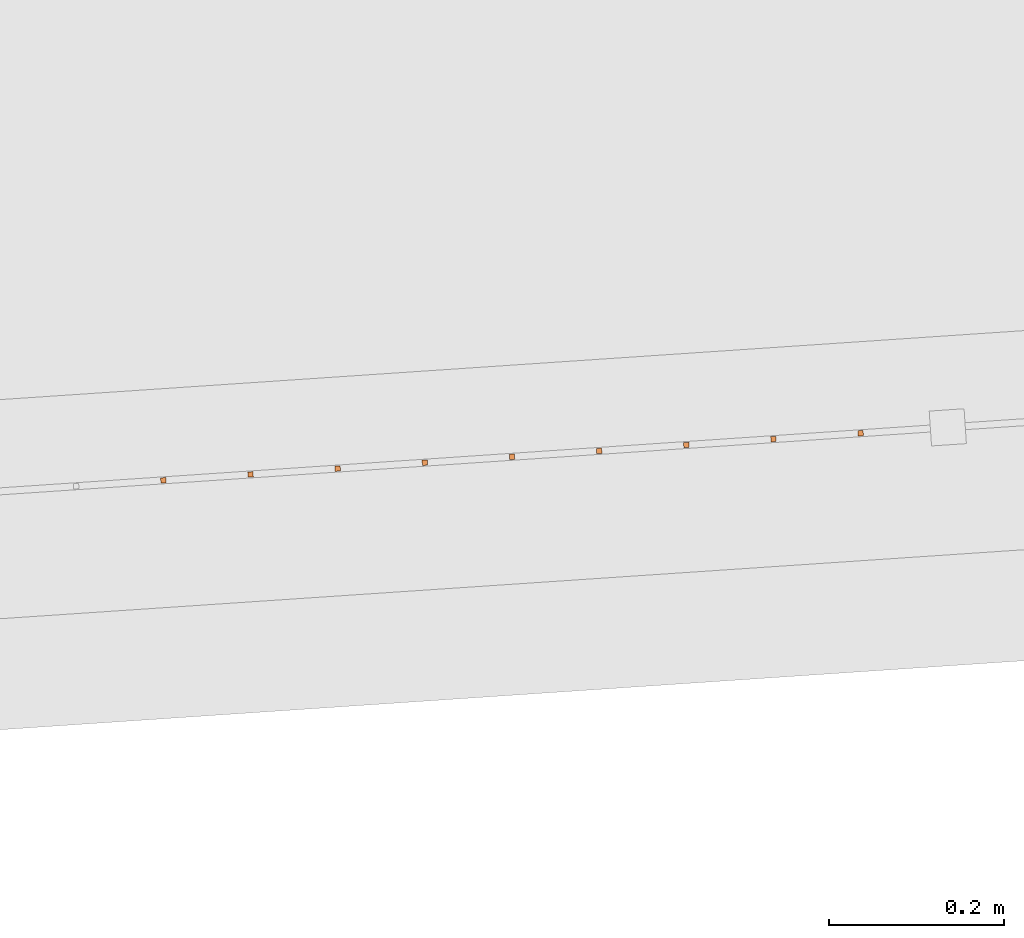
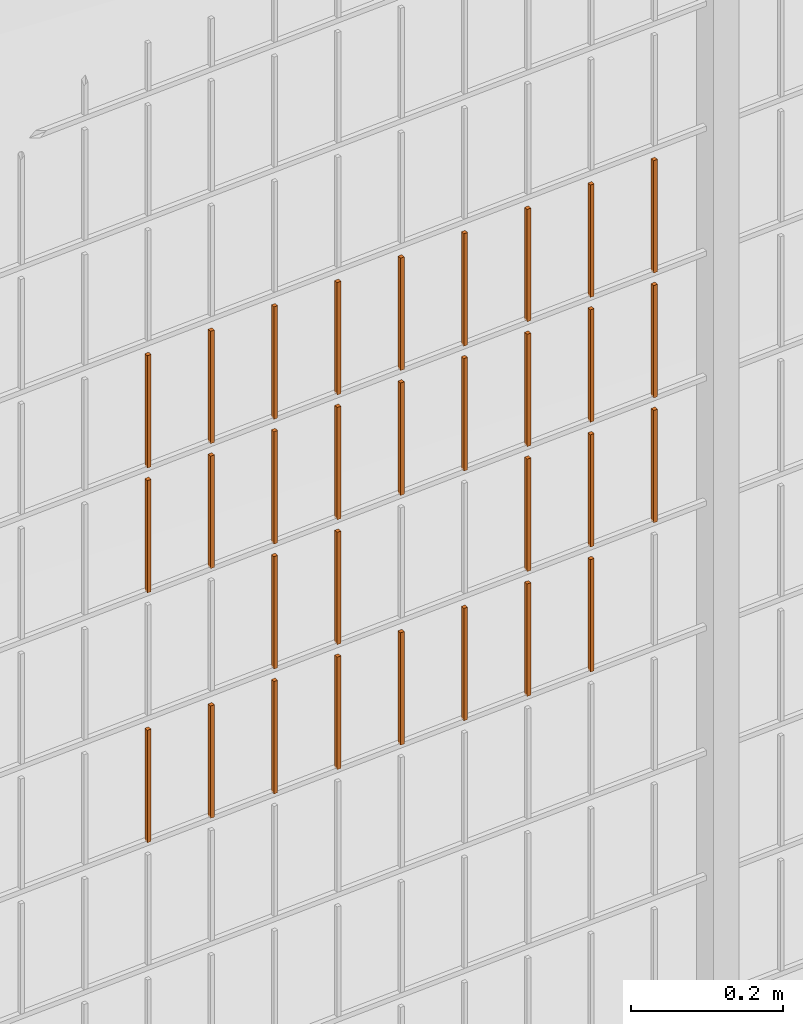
# One storey, part 350 of 1809: 31 proxies, 1 element without a shape of its own.
"""IFC2X3 building model written with IfcOpenShell, lengths in millimetres."""

from ifc_helpers import new_model, entity, si_unit, converted_unit, derived_unit, money_unit, direction, frame, origin_with_axes, place, context, subcontext, project, spatial, faceted_brep, source, transform, mapped, material, type_object, element, aggregate, save


model = new_model("IFC2X3")

# Units and contexts
model_context = context("Model", 3, precision=0.01, world=origin_with_axes(), true_north=direction((0.0, 1.0)))
body_context = subcontext(model_context, "Body", "Model", "MODEL_VIEW")
ifc_project = project(units=[si_unit("LENGTHUNIT", "METRE", prefix="MILLI"), si_unit("AREAUNIT", "SQUARE_METRE"), si_unit("VOLUMEUNIT", "CUBIC_METRE"), converted_unit("PLANEANGLEUNIT", "DEGREE", entity("IfcPlaneAngleMeasure", 0.0174532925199), si_unit("PLANEANGLEUNIT", "RADIAN"), dimensions=[0, 0, 0, 0, 0, 0, 0]), si_unit("SOLIDANGLEUNIT", "STERADIAN"), money_unit("EUR"), converted_unit("TIMEUNIT", "Year", entity("IfcTimeMeasure", 31556926.0), si_unit("TIMEUNIT", "SECOND"), dimensions=[0, 0, 1, 0, 0, 0, 0]), si_unit("MASSUNIT", "GRAM", prefix="KILO"), si_unit("THERMODYNAMICTEMPERATUREUNIT", "DEGREE_CELSIUS"), si_unit("LUMINOUSINTENSITYUNIT", "LUMEN"), si_unit("ENERGYUNIT", "JOULE", prefix="MEGA"), derived_unit("THERMALCONDUCTANCEUNIT", [(si_unit("POWERUNIT", "WATT"), 1), (si_unit("LENGTHUNIT", "METRE"), -1), (si_unit("THERMODYNAMICTEMPERATUREUNIT", "KELVIN"), -1)]), derived_unit("SPECIFICHEATCAPACITYUNIT", [(si_unit("ENERGYUNIT", "JOULE"), 1), (si_unit("MASSUNIT", "GRAM", prefix="KILO"), -1), (si_unit("THERMODYNAMICTEMPERATUREUNIT", "KELVIN"), -1)]), derived_unit("MASSDENSITYUNIT", [(si_unit("MASSUNIT", "GRAM", prefix="KILO"), 1), (si_unit("VOLUMEUNIT", "CUBIC_METRE"), -1)])], contexts=[model_context])

# Site, building, storey
site_placement = place(None, origin_with_axes())
site = spatial("IfcSite", under=ifc_project, at=site_placement, Name="Politse- ja Piirivalveameti ning Päästeameti ühishoone", CompositionType="ELEMENT")
building_placement = place(site_placement, origin_with_axes())
building = spatial("IfcBuilding", under=site, at=building_placement, Name="Politse- ja Piirivalveameti ning Päästeameti ühishoone", CompositionType="ELEMENT")
storey_placement = place(building_placement, origin_with_axes())
storey = spatial("IfcBuildingStorey", under=building, at=storey_placement, Name="Esimene korrus", CompositionType="ELEMENT", Elevation=0.0)

# Proxies
building_element_proxy_type_1 = type_object("IfcBuildingElementProxyType", Name="Railing Type", PredefinedType="NOTDEFINED")
proxy_1_placement = place(storey_placement, frame((89252.001212, -29183.4766571, 203.661247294), z_axis=(0.0, 0.0, 1.0), x_axis=(1.0, 0.0, 0.0)))
proxy_1 = element("IfcBuildingElementProxy", 1, at=proxy_1_placement, inside=storey, type_object=building_element_proxy_type_1, Name="PIIRDEAED")
ifc_material = material(Name="ET-03_Raud")
building_element_proxy_type_2 = type_object("IfcBuildingElementProxyType", Name="IfcBuildingElementProxy", PredefinedType="NOTDEFINED")
shared_shape_1 = source(origin_with_axes(), body_context, "Body", "Brep", [
    faceted_brep([(3.0, 3.0, -0.000752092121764), (-3.0, 3.0, -0.000752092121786), (-3.0, 3.0, 179.99926046), (3.0, 3.0, 179.99926046), (3.0, -3.0, 0.000752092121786), (-3.0, -3.0, 0.000752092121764), (-3.0, -3.0, 180.000764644), (3.0, -3.0, 180.000764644)], [[[0, 1, 2, 3]], [[0, 4, 5, 1]], [[1, 5, 6, 2]], [[3, 2, 6, 7]], [[4, 0, 3, 7]], [[5, 4, 7, 6]]]),
])
proxy_2_placement = place(proxy_1_placement, frame((-27863.1974887, -19179.8286001, 1420.23323817), z_axis=(0.0, 0.0, 1.0), x_axis=(1.0, 0.0, 0.0)))
proxy_2 = element("IfcBuildingElementProxy", 2, at=proxy_2_placement, type_object=building_element_proxy_type_2, material=ifc_material, Name="BALUSTER - 001", context=body_context, shape_type="MappedRepresentation", body=[
    mapped(shared_shape_1, transform((0.0, 0.0, 0.0), x_axis=(-0.0673926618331, 0.997726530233, 0.0), y_axis=(-0.997726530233, -0.0673926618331, 0.0), z_axis=(0.0, 0.0, 1.0))),
])
shared_shape_2 = source(origin_with_axes(), body_context, "Body", "Brep", [
    faceted_brep([(3.0, 3.0, -0.000752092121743), (-3.0, 3.0, -0.000752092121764), (-3.0, 3.0, 179.99926046), (3.0, 3.0, 179.99926046), (3.0, -3.0, 0.000752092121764), (-3.0, -3.0, 0.000752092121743), (-3.0, -3.0, 180.000764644), (3.0, -3.0, 180.000764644)], [[[0, 1, 2, 3]], [[0, 4, 5, 1]], [[1, 5, 6, 2]], [[3, 2, 6, 7]], [[4, 0, 3, 7]], [[5, 4, 7, 6]]]),
])
proxy_3_placement = place(proxy_1_placement, frame((-27962.9701417, -19186.5678662, 820.208168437), z_axis=(0.0, 0.0, 1.0), x_axis=(1.0, 0.0, 0.0)))
proxy_3 = element("IfcBuildingElementProxy", 3, at=proxy_3_placement, type_object=building_element_proxy_type_2, material=ifc_material, Name="BALUSTER - 001", context=body_context, shape_type="MappedRepresentation", body=[
    mapped(shared_shape_2, transform((0.0, 0.0, 0.0), x_axis=(-0.0673926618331, 0.997726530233, 0.0), y_axis=(-0.997726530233, -0.0673926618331, 0.0), z_axis=(0.0, 0.0, 1.0))),
])
shared_shape_3 = source(origin_with_axes(), body_context, "Body", "Brep", [
    faceted_brep([(3.0, 3.0, -0.000752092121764), (-3.0, 3.0, -0.000752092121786), (-3.0, 3.0, 179.99926046), (3.0, 3.0, 179.99926046), (3.0, -3.0, 0.000752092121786), (-3.0, -3.0, 0.000752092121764), (-3.0, -3.0, 180.000764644), (3.0, -3.0, 180.000764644)], [[[0, 1, 2, 3]], [[0, 4, 5, 1]], [[1, 5, 6, 2]], [[3, 2, 6, 7]], [[4, 0, 3, 7]], [[5, 4, 7, 6]]]),
])
proxy_4_placement = place(proxy_1_placement, frame((-27863.1974887, -19179.8286001, 820.233238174), z_axis=(0.0, 0.0, 1.0), x_axis=(1.0, 0.0, 0.0)))
proxy_4 = element("IfcBuildingElementProxy", 4, at=proxy_4_placement, type_object=building_element_proxy_type_2, material=ifc_material, Name="BALUSTER - 001", context=body_context, shape_type="MappedRepresentation", body=[
    mapped(shared_shape_3, transform((0.0, 0.0, 0.0), x_axis=(-0.0673926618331, 0.997726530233, 0.0), y_axis=(-0.997726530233, -0.0673926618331, 0.0), z_axis=(0.0, 0.0, 1.0))),
])
proxy_5_placement = place(proxy_1_placement, frame((-27863.1974887, -19179.8286001, 1220.23323817), z_axis=(0.0, 0.0, 1.0), x_axis=(1.0, 0.0, 0.0)))
proxy_5 = element("IfcBuildingElementProxy", 5, at=proxy_5_placement, type_object=building_element_proxy_type_2, material=ifc_material, Name="BALUSTER - 001", context=body_context, shape_type="MappedRepresentation", body=[
    mapped(shared_shape_3, transform((0.0, 0.0, 0.0), x_axis=(-0.0673926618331, 0.997726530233, 0.0), y_axis=(-0.997726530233, -0.0673926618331, 0.0), z_axis=(0.0, 0.0, 1.0))),
])
shared_shape_4 = source(origin_with_axes(), body_context, "Body", "Brep", [
    faceted_brep([(3.0, 3.0, -0.000752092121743), (-3.0, 3.0, -0.000752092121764), (-3.0, 3.0, 179.99926046), (3.0, 3.0, 179.99926046), (3.0, -3.0, 0.000752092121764), (-3.0, -3.0, 0.000752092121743), (-3.0, -3.0, 180.000764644), (3.0, -3.0, 180.000764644)], [[[0, 1, 2, 3]], [[0, 4, 5, 1]], [[1, 5, 6, 2]], [[3, 2, 6, 7]], [[4, 0, 3, 7]], [[5, 4, 7, 6]]]),
])
proxy_6_placement = place(proxy_1_placement, frame((-28162.5154478, -19200.0463986, 820.158028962), z_axis=(0.0, 0.0, 1.0), x_axis=(1.0, 0.0, 0.0)))
proxy_6 = element("IfcBuildingElementProxy", 6, at=proxy_6_placement, type_object=building_element_proxy_type_2, material=ifc_material, Name="BALUSTER - 001", context=body_context, shape_type="MappedRepresentation", body=[
    mapped(shared_shape_4, transform((0.0, 0.0, 0.0), x_axis=(-0.0673926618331, 0.997726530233, 0.0), y_axis=(-0.997726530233, -0.0673926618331, 0.0), z_axis=(0.0, 0.0, 1.0))),
])
shared_shape_5 = source(origin_with_axes(), body_context, "Body", "Brep", [
    faceted_brep([(3.0, 3.0, -0.000752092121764), (-3.0, 3.0, -0.000752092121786), (-3.0, 3.0, 179.99926046), (3.0, 3.0, 179.99926046), (3.0, -3.0, 0.000752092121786), (-3.0, -3.0, 0.000752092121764), (-3.0, -3.0, 180.000764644), (3.0, -3.0, 180.000764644)], [[[0, 1, 2, 3]], [[0, 4, 5, 1]], [[1, 5, 6, 2]], [[3, 2, 6, 7]], [[4, 0, 3, 7]], [[5, 4, 7, 6]]]),
])
proxy_7_placement = place(proxy_1_placement, frame((-27763.4248357, -19173.0893339, 820.258307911), z_axis=(0.0, 0.0, 1.0), x_axis=(1.0, 0.0, 0.0)))
proxy_7 = element("IfcBuildingElementProxy", 7, at=proxy_7_placement, type_object=building_element_proxy_type_2, material=ifc_material, Name="BALUSTER - 001", context=body_context, shape_type="MappedRepresentation", body=[
    mapped(shared_shape_5, transform((0.0, 0.0, 0.0), x_axis=(-0.0673926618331, 0.997726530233, 0.0), y_axis=(-0.997726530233, -0.0673926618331, 0.0), z_axis=(0.0, 0.0, 1.0))),
])
shared_shape_6 = source(origin_with_axes(), body_context, "Body", "Brep", [
    faceted_brep([(3.0, 3.0, -0.000752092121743), (-3.0, 3.0, -0.000752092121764), (-3.0, 3.0, 179.99926046), (3.0, 3.0, 179.99926046), (3.0, -3.0, 0.000752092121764), (-3.0, -3.0, 0.000752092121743), (-3.0, -3.0, 180.000764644), (3.0, -3.0, 180.000764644)], [[[0, 1, 2, 3]], [[0, 4, 5, 1]], [[1, 5, 6, 2]], [[3, 2, 6, 7]], [[4, 0, 3, 7]], [[5, 4, 7, 6]]]),
])
proxy_8_placement = place(proxy_1_placement, frame((-27962.9701417, -19186.5678662, 1220.20816844), z_axis=(0.0, 0.0, 1.0), x_axis=(1.0, 0.0, 0.0)))
proxy_8 = element("IfcBuildingElementProxy", 8, at=proxy_8_placement, type_object=building_element_proxy_type_2, material=ifc_material, Name="BALUSTER - 001", context=body_context, shape_type="MappedRepresentation", body=[
    mapped(shared_shape_6, transform((0.0, 0.0, 0.0), x_axis=(-0.0673926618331, 0.997726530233, 0.0), y_axis=(-0.997726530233, -0.0673926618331, 0.0), z_axis=(0.0, 0.0, 1.0))),
])
shared_shape_7 = source(origin_with_axes(), body_context, "Body", "Brep", [
    faceted_brep([(3.0, 3.0, -0.000752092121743), (-3.0, 3.0, -0.000752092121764), (-3.0, 3.0, 179.99926046), (3.0, 3.0, 179.99926046), (3.0, -3.0, 0.000752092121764), (-3.0, -3.0, 0.000752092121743), (-3.0, -3.0, 180.000764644), (3.0, -3.0, 180.000764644)], [[[0, 1, 2, 3]], [[0, 4, 5, 1]], [[1, 5, 6, 2]], [[3, 2, 6, 7]], [[4, 0, 3, 7]], [[5, 4, 7, 6]]]),
])
proxy_9_placement = place(proxy_1_placement, frame((-27962.9701417, -19186.5678662, 1420.20816844), z_axis=(0.0, 0.0, 1.0), x_axis=(1.0, 0.0, 0.0)))
proxy_9 = element("IfcBuildingElementProxy", 9, at=proxy_9_placement, type_object=building_element_proxy_type_2, material=ifc_material, Name="BALUSTER - 001", context=body_context, shape_type="MappedRepresentation", body=[
    mapped(shared_shape_7, transform((0.0, 0.0, 0.0), x_axis=(-0.0673926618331, 0.997726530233, 0.0), y_axis=(-0.997726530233, -0.0673926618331, 0.0), z_axis=(0.0, 0.0, 1.0))),
])
shared_shape_8 = source(origin_with_axes(), body_context, "Body", "Brep", [
    faceted_brep([(3.0, 3.0, -0.000752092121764), (-3.0, 3.0, -0.000752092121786), (-3.0, 3.0, 179.99926046), (3.0, 3.0, 179.99926046), (3.0, -3.0, 0.000752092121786), (-3.0, -3.0, 0.000752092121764), (-3.0, -3.0, 180.000764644), (3.0, -3.0, 180.000764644)], [[[0, 1, 2, 3]], [[0, 4, 5, 1]], [[1, 5, 6, 2]], [[3, 2, 6, 7]], [[4, 0, 3, 7]], [[5, 4, 7, 6]]]),
])
proxy_10_placement = place(proxy_1_placement, frame((-27763.4248357, -19173.0893339, 1220.25830791), z_axis=(0.0, 0.0, 1.0), x_axis=(1.0, 0.0, 0.0)))
proxy_10 = element("IfcBuildingElementProxy", 10, at=proxy_10_placement, type_object=building_element_proxy_type_2, material=ifc_material, Name="BALUSTER - 001", context=body_context, shape_type="MappedRepresentation", body=[
    mapped(shared_shape_8, transform((0.0, 0.0, 0.0), x_axis=(-0.0673926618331, 0.997726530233, 0.0), y_axis=(-0.997726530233, -0.0673926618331, 0.0), z_axis=(0.0, 0.0, 1.0))),
])
shared_shape_9 = source(origin_with_axes(), body_context, "Body", "Brep", [
    faceted_brep([(3.0, 3.0, -0.000752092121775), (-3.0, 3.0, -0.000752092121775), (-3.0, 3.0, 179.99926046), (3.0, 3.0, 179.99926046), (3.0, -3.0, 0.000752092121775), (-3.0, -3.0, 0.000752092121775), (-3.0, -3.0, 180.000764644), (3.0, -3.0, 180.000764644)], [[[0, 1, 2, 3]], [[0, 4, 5, 1]], [[1, 5, 6, 2]], [[3, 2, 6, 7]], [[4, 0, 3, 7]], [[5, 4, 7, 6]]]),
])
proxy_11_placement = place(proxy_1_placement, frame((-27563.8795296, -19159.6108015, 1420.30844739), z_axis=(0.0, 0.0, 1.0), x_axis=(1.0, 0.0, 0.0)))
proxy_11 = element("IfcBuildingElementProxy", 11, at=proxy_11_placement, type_object=building_element_proxy_type_2, material=ifc_material, Name="BALUSTER - 001", context=body_context, shape_type="MappedRepresentation", body=[
    mapped(shared_shape_9, transform((0.0, 0.0, 0.0), x_axis=(-0.0673926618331, 0.997726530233, 0.0), y_axis=(-0.997726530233, -0.0673926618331, 0.0), z_axis=(0.0, 0.0, 1.0))),
])
shared_shape_10 = source(origin_with_axes(), body_context, "Body", "Brep", [
    faceted_brep([(3.0, 3.0, -0.000752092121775), (-3.0, 3.0, -0.000752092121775), (-3.0, 3.0, 179.99926046), (3.0, 3.0, 179.99926046), (3.0, -3.0, 0.000752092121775), (-3.0, -3.0, 0.000752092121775), (-3.0, -3.0, 180.000764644), (3.0, -3.0, 180.000764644)], [[[0, 1, 2, 3]], [[0, 4, 5, 1]], [[1, 5, 6, 2]], [[3, 2, 6, 7]], [[4, 0, 3, 7]], [[5, 4, 7, 6]]]),
])
proxy_12_placement = place(proxy_1_placement, frame((-27563.8795296, -19159.6108015, 1220.30844739), z_axis=(0.0, 0.0, 1.0), x_axis=(1.0, 0.0, 0.0)))
proxy_12 = element("IfcBuildingElementProxy", 12, at=proxy_12_placement, type_object=building_element_proxy_type_2, material=ifc_material, Name="BALUSTER - 001", context=body_context, shape_type="MappedRepresentation", body=[
    mapped(shared_shape_10, transform((0.0, 0.0, 0.0), x_axis=(-0.0673926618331, 0.997726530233, 0.0), y_axis=(-0.997726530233, -0.0673926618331, 0.0), z_axis=(0.0, 0.0, 1.0))),
])
shared_shape_11 = source(origin_with_axes(), body_context, "Body", "Brep", [
    faceted_brep([(3.0, 3.0, -0.000752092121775), (-3.0, 3.0, -0.000752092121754), (-3.0, 3.0, 179.99926046), (3.0, 3.0, 179.99926046), (3.0, -3.0, 0.000752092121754), (-3.0, -3.0, 0.000752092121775), (-3.0, -3.0, 180.000764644), (3.0, -3.0, 180.000764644)], [[[0, 1, 2, 3]], [[0, 4, 5, 1]], [[1, 5, 6, 2]], [[3, 2, 6, 7]], [[4, 0, 3, 7]], [[5, 4, 7, 6]]]),
])
proxy_13_placement = place(proxy_1_placement, frame((-27464.1068766, -19152.8715353, 820.333517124), z_axis=(0.0, 0.0, 1.0), x_axis=(1.0, 0.0, 0.0)))
proxy_13 = element("IfcBuildingElementProxy", 13, at=proxy_13_placement, type_object=building_element_proxy_type_2, material=ifc_material, Name="BALUSTER - 001", context=body_context, shape_type="MappedRepresentation", body=[
    mapped(shared_shape_11, transform((0.0, 0.0, 0.0), x_axis=(-0.0673926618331, 0.997726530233, 0.0), y_axis=(-0.997726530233, -0.0673926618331, 0.0), z_axis=(0.0, 0.0, 1.0))),
])
shared_shape_12 = source(origin_with_axes(), body_context, "Body", "Brep", [
    faceted_brep([(3.0, 3.0, -0.000752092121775), (-3.0, 3.0, -0.000752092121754), (-3.0, 3.0, 179.99926046), (3.0, 3.0, 179.99926046), (3.0, -3.0, 0.000752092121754), (-3.0, -3.0, 0.000752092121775), (-3.0, -3.0, 180.000764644), (3.0, -3.0, 180.000764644)], [[[0, 1, 2, 3]], [[0, 4, 5, 1]], [[1, 5, 6, 2]], [[3, 2, 6, 7]], [[4, 0, 3, 7]], [[5, 4, 7, 6]]]),
])
proxy_14_placement = place(proxy_1_placement, frame((-27663.6521826, -19166.3500677, 820.283377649), z_axis=(0.0, 0.0, 1.0), x_axis=(1.0, 0.0, 0.0)))
proxy_14 = element("IfcBuildingElementProxy", 14, at=proxy_14_placement, type_object=building_element_proxy_type_2, material=ifc_material, Name="BALUSTER - 001", context=body_context, shape_type="MappedRepresentation", body=[
    mapped(shared_shape_12, transform((0.0, 0.0, 0.0), x_axis=(-0.0673926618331, 0.997726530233, 0.0), y_axis=(-0.997726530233, -0.0673926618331, 0.0), z_axis=(0.0, 0.0, 1.0))),
])
shared_shape_13 = source(origin_with_axes(), body_context, "Body", "Brep", [
    faceted_brep([(3.0, 3.0, -0.000752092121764), (-3.0, 3.0, -0.000752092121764), (-3.0, 3.0, 179.99926046), (3.0, 3.0, 179.99926046), (3.0, -3.0, 0.000752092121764), (-3.0, -3.0, 0.000752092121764), (-3.0, -3.0, 180.000764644), (3.0, -3.0, 180.000764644)], [[[0, 1, 2, 3]], [[0, 4, 5, 1]], [[1, 5, 6, 2]], [[3, 2, 6, 7]], [[4, 0, 3, 7]], [[5, 4, 7, 6]]]),
])
proxy_15_placement = place(proxy_1_placement, frame((-27364.3342236, -19146.1322691, 1220.35858686), z_axis=(0.0, 0.0, 1.0), x_axis=(1.0, 0.0, 0.0)))
proxy_15 = element("IfcBuildingElementProxy", 15, at=proxy_15_placement, type_object=building_element_proxy_type_2, material=ifc_material, Name="BALUSTER - 001", context=body_context, shape_type="MappedRepresentation", body=[
    mapped(shared_shape_13, transform((0.0, 0.0, 0.0), x_axis=(-0.0673926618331, 0.997726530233, 0.0), y_axis=(-0.997726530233, -0.0673926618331, 0.0), z_axis=(0.0, 0.0, 1.0))),
])
shared_shape_14 = source(origin_with_axes(), body_context, "Body", "Brep", [
    faceted_brep([(3.0, 3.0, -0.000752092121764), (-3.0, 3.0, -0.000752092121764), (-3.0, 3.0, 179.99926046), (3.0, 3.0, 179.99926046), (3.0, -3.0, 0.000752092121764), (-3.0, -3.0, 0.000752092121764), (-3.0, -3.0, 180.000764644), (3.0, -3.0, 180.000764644)], [[[0, 1, 2, 3]], [[0, 4, 5, 1]], [[1, 5, 6, 2]], [[3, 2, 6, 7]], [[4, 0, 3, 7]], [[5, 4, 7, 6]]]),
])
proxy_16_placement = place(proxy_1_placement, frame((-27563.8795296, -19159.6108015, 820.308447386), z_axis=(0.0, 0.0, 1.0), x_axis=(1.0, 0.0, 0.0)))
proxy_16 = element("IfcBuildingElementProxy", 16, at=proxy_16_placement, type_object=building_element_proxy_type_2, material=ifc_material, Name="BALUSTER - 001", context=body_context, shape_type="MappedRepresentation", body=[
    mapped(shared_shape_14, transform((0.0, 0.0, 0.0), x_axis=(-0.0673926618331, 0.997726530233, 0.0), y_axis=(-0.997726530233, -0.0673926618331, 0.0), z_axis=(0.0, 0.0, 1.0))),
])
shared_shape_15 = source(origin_with_axes(), body_context, "Body", "Brep", [
    faceted_brep([(3.0, 3.0, -0.000752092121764), (-3.0, 3.0, -0.000752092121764), (-3.0, 3.0, 179.99926046), (3.0, 3.0, 179.99926046), (3.0, -3.0, 0.000752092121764), (-3.0, -3.0, 0.000752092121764), (-3.0, -3.0, 180.000764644), (3.0, -3.0, 180.000764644)], [[[0, 1, 2, 3]], [[0, 4, 5, 1]], [[1, 5, 6, 2]], [[3, 2, 6, 7]], [[4, 0, 3, 7]], [[5, 4, 7, 6]]]),
])
proxy_17_placement = place(proxy_1_placement, frame((-27364.3342236, -19146.1322691, 1420.35858686), z_axis=(0.0, 0.0, 1.0), x_axis=(1.0, 0.0, 0.0)))
proxy_17 = element("IfcBuildingElementProxy", 17, at=proxy_17_placement, type_object=building_element_proxy_type_2, material=ifc_material, Name="BALUSTER - 001", context=body_context, shape_type="MappedRepresentation", body=[
    mapped(shared_shape_15, transform((0.0, 0.0, 0.0), x_axis=(-0.0673926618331, 0.997726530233, 0.0), y_axis=(-0.997726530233, -0.0673926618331, 0.0), z_axis=(0.0, 0.0, 1.0))),
])
shared_shape_16 = source(origin_with_axes(), body_context, "Body", "Brep", [
    faceted_brep([(3.0, 3.0, -0.000752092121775), (-3.0, 3.0, -0.000752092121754), (-3.0, 3.0, 179.99926046), (3.0, 3.0, 179.99926046), (3.0, -3.0, 0.000752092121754), (-3.0, -3.0, 0.000752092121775), (-3.0, -3.0, 180.000764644), (3.0, -3.0, 180.000764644)], [[[0, 1, 2, 3]], [[0, 4, 5, 1]], [[1, 5, 6, 2]], [[3, 2, 6, 7]], [[4, 0, 3, 7]], [[5, 4, 7, 6]]]),
])
proxy_18_placement = place(proxy_1_placement, frame((-28062.7427947, -19193.3071324, 1220.1830987), z_axis=(0.0, 0.0, 1.0), x_axis=(1.0, 0.0, 0.0)))
proxy_18 = element("IfcBuildingElementProxy", 18, at=proxy_18_placement, type_object=building_element_proxy_type_2, material=ifc_material, Name="BALUSTER - 001", context=body_context, shape_type="MappedRepresentation", body=[
    mapped(shared_shape_16, transform((0.0, 0.0, 0.0), x_axis=(-0.0673926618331, 0.997726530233, 0.0), y_axis=(-0.997726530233, -0.0673926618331, 0.0), z_axis=(0.0, 0.0, 1.0))),
])
shared_shape_17 = source(origin_with_axes(), body_context, "Body", "Brep", [
    faceted_brep([(3.0, 3.0, -0.000752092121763), (-3.0, 3.0, -0.000752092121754), (-3.00000000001, 2.99999999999, 179.99926046), (2.99999999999, 2.99999999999, 179.99926046), (3.0, -3.0, 0.000752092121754), (-3.0, -3.0, 0.000752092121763), (-3.00000000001, -3.00000000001, 180.000764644), (2.99999999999, -3.00000000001, 180.000764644)], [[[0, 1, 2, 3]], [[0, 4, 5, 1]], [[1, 5, 6, 2]], [[3, 2, 6, 7]], [[4, 0, 3, 7]], [[5, 4, 7, 6]]]),
])
proxy_19_placement = place(proxy_1_placement, frame((-27464.1068766, -19152.8715353, 1020.33351712), z_axis=(0.0, 0.0, 1.0), x_axis=(1.0, 0.0, 0.0)))
proxy_19 = element("IfcBuildingElementProxy", 19, at=proxy_19_placement, type_object=building_element_proxy_type_2, material=ifc_material, Name="BALUSTER - 001", context=body_context, shape_type="MappedRepresentation", body=[
    mapped(shared_shape_17, transform((0.0, 0.0, 0.0), x_axis=(-0.0673926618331, 0.997726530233, 0.0), y_axis=(-0.997726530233, -0.0673926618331, 0.0), z_axis=(0.0, 0.0, 1.0))),
])
shared_shape_18 = source(origin_with_axes(), body_context, "Body", "Brep", [
    faceted_brep([(3.0, 3.0, -0.000752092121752), (-3.0, 3.0, -0.000752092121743), (-3.00000000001, 2.99999999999, 179.99926046), (2.99999999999, 2.99999999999, 179.99926046), (3.0, -3.0, 0.000752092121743), (-3.0, -3.0, 0.000752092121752), (-3.00000000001, -3.00000000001, 180.000764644), (2.99999999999, -3.00000000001, 180.000764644)], [[[0, 1, 2, 3]], [[0, 4, 5, 1]], [[1, 5, 6, 2]], [[3, 2, 6, 7]], [[4, 0, 3, 7]], [[5, 4, 7, 6]]]),
])
proxy_20_placement = place(proxy_1_placement, frame((-27962.9701417, -19186.5678662, 1020.20816844), z_axis=(0.0, 0.0, 1.0), x_axis=(1.0, 0.0, 0.0)))
proxy_20 = element("IfcBuildingElementProxy", 20, at=proxy_20_placement, type_object=building_element_proxy_type_2, material=ifc_material, Name="BALUSTER - 001", context=body_context, shape_type="MappedRepresentation", body=[
    mapped(shared_shape_18, transform((0.0, 0.0, 0.0), x_axis=(-0.0673926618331, 0.997726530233, 0.0), y_axis=(-0.997726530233, -0.0673926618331, 0.0), z_axis=(0.0, 0.0, 1.0))),
])
shared_shape_19 = source(origin_with_axes(), body_context, "Body", "Brep", [
    faceted_brep([(3.0, 3.0, -0.000752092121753), (-3.0, 3.0, -0.000752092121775), (-3.0, 3.0, 179.99926046), (3.0, 3.0, 179.99926046), (3.0, -3.0, 0.000752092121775), (-3.0, -3.0, 0.000752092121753), (-3.0, -3.0, 180.000764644), (3.0, -3.0, 180.000764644)], [[[0, 1, 2, 3]], [[0, 4, 5, 1]], [[1, 5, 6, 2]], [[3, 2, 6, 7]], [[4, 0, 3, 7]], [[5, 4, 7, 6]]]),
])
proxy_21_placement = place(proxy_1_placement, frame((-28062.7427947, -19193.3071324, 820.183098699), z_axis=(0.0, 0.0, 1.0), x_axis=(1.0, 0.0, 0.0)))
proxy_21 = element("IfcBuildingElementProxy", 21, at=proxy_21_placement, type_object=building_element_proxy_type_2, material=ifc_material, Name="BALUSTER - 001", context=body_context, shape_type="MappedRepresentation", body=[
    mapped(shared_shape_19, transform((0.0, 0.0, 0.0), x_axis=(-0.0673926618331, 0.997726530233, 0.0), y_axis=(-0.997726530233, -0.0673926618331, 0.0), z_axis=(0.0, 0.0, 1.0))),
])
shared_shape_20 = source(origin_with_axes(), body_context, "Body", "Brep", [
    faceted_brep([(3.0, 3.0, -0.000752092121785), (-3.0, 3.0, -0.000752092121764), (-3.0, 3.0, 179.99926046), (3.0, 3.0, 179.99926046), (3.0, -3.0, 0.000752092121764), (-3.0, -3.0, 0.000752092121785), (-3.0, -3.0, 180.000764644), (3.0, -3.0, 180.000764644)], [[[0, 1, 2, 3]], [[0, 4, 5, 1]], [[1, 5, 6, 2]], [[3, 2, 6, 7]], [[4, 0, 3, 7]], [[5, 4, 7, 6]]]),
])
proxy_22_placement = place(proxy_1_placement, frame((-27663.6521826, -19166.3500677, 1220.28337765), z_axis=(0.0, 0.0, 1.0), x_axis=(1.0, 0.0, 0.0)))
proxy_22 = element("IfcBuildingElementProxy", 22, at=proxy_22_placement, type_object=building_element_proxy_type_2, material=ifc_material, Name="BALUSTER - 001", context=body_context, shape_type="MappedRepresentation", body=[
    mapped(shared_shape_20, transform((0.0, 0.0, 0.0), x_axis=(-0.0673926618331, 0.997726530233, 0.0), y_axis=(-0.997726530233, -0.0673926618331, 0.0), z_axis=(0.0, 0.0, 1.0))),
])
shared_shape_21 = source(origin_with_axes(), body_context, "Body", "Brep", [
    faceted_brep([(3.0, 3.0, -0.000752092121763), (-3.0, 3.0, -0.000752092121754), (-3.00000000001, 2.99999999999, 179.99926046), (2.99999999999, 2.99999999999, 179.99926046), (3.0, -3.0, 0.000752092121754), (-3.0, -3.0, 0.000752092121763), (-3.00000000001, -3.00000000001, 180.000764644), (2.99999999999, -3.00000000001, 180.000764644)], [[[0, 1, 2, 3]], [[0, 4, 5, 1]], [[1, 5, 6, 2]], [[3, 2, 6, 7]], [[4, 0, 3, 7]], [[5, 4, 7, 6]]]),
])
proxy_23_placement = place(proxy_1_placement, frame((-27364.3342236, -19146.1322691, 1020.35858686), z_axis=(0.0, 0.0, 1.0), x_axis=(1.0, 0.0, 0.0)))
proxy_23 = element("IfcBuildingElementProxy", 23, at=proxy_23_placement, type_object=building_element_proxy_type_2, material=ifc_material, Name="BALUSTER - 001", context=body_context, shape_type="MappedRepresentation", body=[
    mapped(shared_shape_21, transform((0.0, 0.0, 0.0), x_axis=(-0.0673926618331, 0.997726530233, 0.0), y_axis=(-0.997726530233, -0.0673926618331, 0.0), z_axis=(0.0, 0.0, 1.0))),
])
shared_shape_22 = source(origin_with_axes(), body_context, "Body", "Brep", [
    faceted_brep([(3.0, 3.0, -0.000752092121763), (-3.0, 3.0, -0.000752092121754), (-3.00000000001, 2.99999999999, 179.99926046), (2.99999999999, 2.99999999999, 179.99926046), (3.0, -3.0, 0.000752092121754), (-3.0, -3.0, 0.000752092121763), (-3.00000000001, -3.00000000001, 180.000764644), (2.99999999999, -3.00000000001, 180.000764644)], [[[0, 1, 2, 3]], [[0, 4, 5, 1]], [[1, 5, 6, 2]], [[3, 2, 6, 7]], [[4, 0, 3, 7]], [[5, 4, 7, 6]]]),
])
proxy_24_placement = place(proxy_1_placement, frame((-27563.8795296, -19159.6108015, 1020.30844739), z_axis=(0.0, 0.0, 1.0), x_axis=(1.0, 0.0, 0.0)))
proxy_24 = element("IfcBuildingElementProxy", 24, at=proxy_24_placement, type_object=building_element_proxy_type_2, material=ifc_material, Name="BALUSTER - 001", context=body_context, shape_type="MappedRepresentation", body=[
    mapped(shared_shape_22, transform((0.0, 0.0, 0.0), x_axis=(-0.0673926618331, 0.997726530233, 0.0), y_axis=(-0.997726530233, -0.0673926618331, 0.0), z_axis=(0.0, 0.0, 1.0))),
])
shared_shape_23 = source(origin_with_axes(), body_context, "Body", "Brep", [
    faceted_brep([(3.0, 3.0, -0.000752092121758), (-3.0, 3.0, -0.00075209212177), (-3.00000000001, 3.0, 179.99926046), (2.99999999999, 3.0, 179.99926046), (3.0, -3.0, 0.00075209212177), (-3.0, -3.0, 0.000752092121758), (-3.00000000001, -3.0, 180.000764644), (2.99999999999, -3.0, 180.000764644)], [[[0, 1, 2, 3]], [[0, 4, 5, 1]], [[1, 5, 6, 2]], [[3, 2, 6, 7]], [[4, 0, 3, 7]], [[5, 4, 7, 6]]]),
])
proxy_25_placement = place(proxy_1_placement, frame((-27863.1974887, -19179.8286001, 1020.23323817), z_axis=(0.0, 0.0, 1.0), x_axis=(1.0, 0.0, 0.0)))
proxy_25 = element("IfcBuildingElementProxy", 25, at=proxy_25_placement, type_object=building_element_proxy_type_2, material=ifc_material, Name="BALUSTER - 001", context=body_context, shape_type="MappedRepresentation", body=[
    mapped(shared_shape_23, transform((0.0, 0.0, 0.0), x_axis=(-0.0673926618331, 0.997726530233, 0.0), y_axis=(-0.997726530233, -0.0673926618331, 0.0), z_axis=(0.0, 0.0, 1.0))),
])
shared_shape_24 = source(origin_with_axes(), body_context, "Body", "Brep", [
    faceted_brep([(3.0, 3.0, -0.000752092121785), (-3.0, 3.0, -0.000752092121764), (-3.0, 3.0, 179.99926046), (3.0, 3.0, 179.99926046), (3.0, -3.0, 0.000752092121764), (-3.0, -3.0, 0.000752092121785), (-3.0, -3.0, 180.000764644), (3.0, -3.0, 180.000764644)], [[[0, 1, 2, 3]], [[0, 4, 5, 1]], [[1, 5, 6, 2]], [[3, 2, 6, 7]], [[4, 0, 3, 7]], [[5, 4, 7, 6]]]),
])
proxy_26_placement = place(proxy_1_placement, frame((-27464.1068766, -19152.8715353, 1220.33351712), z_axis=(0.0, 0.0, 1.0), x_axis=(1.0, 0.0, 0.0)))
proxy_26 = element("IfcBuildingElementProxy", 26, at=proxy_26_placement, type_object=building_element_proxy_type_2, material=ifc_material, Name="BALUSTER - 001", context=body_context, shape_type="MappedRepresentation", body=[
    mapped(shared_shape_24, transform((0.0, 0.0, 0.0), x_axis=(-0.0673926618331, 0.997726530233, 0.0), y_axis=(-0.997726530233, -0.0673926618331, 0.0), z_axis=(0.0, 0.0, 1.0))),
])
shared_shape_25 = source(origin_with_axes(), body_context, "Body", "Brep", [
    faceted_brep([(3.0, 3.0, -0.000752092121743), (-3.0, 3.0, -0.000752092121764), (-3.0, 3.0, 179.99926046), (3.0, 3.0, 179.99926046), (3.0, -3.0, 0.000752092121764), (-3.0, -3.0, 0.000752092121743), (-3.0, -3.0, 180.000764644), (3.0, -3.0, 180.000764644)], [[[0, 1, 2, 3]], [[0, 4, 5, 1]], [[1, 5, 6, 2]], [[3, 2, 6, 7]], [[4, 0, 3, 7]], [[5, 4, 7, 6]]]),
])
proxy_27_placement = place(proxy_1_placement, frame((-28162.5154478, -19200.0463986, 1220.15802896), z_axis=(0.0, 0.0, 1.0), x_axis=(1.0, 0.0, 0.0)))
proxy_27 = element("IfcBuildingElementProxy", 27, at=proxy_27_placement, type_object=building_element_proxy_type_2, material=ifc_material, Name="BALUSTER - 001", context=body_context, shape_type="MappedRepresentation", body=[
    mapped(shared_shape_25, transform((0.0, 0.0, 0.0), x_axis=(-0.0673926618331, 0.997726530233, 0.0), y_axis=(-0.997726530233, -0.0673926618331, 0.0), z_axis=(0.0, 0.0, 1.0))),
])
shared_shape_26 = source(origin_with_axes(), body_context, "Body", "Brep", [
    faceted_brep([(3.0, 3.0, -0.000752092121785), (-3.0, 3.0, -0.000752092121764), (-3.0, 3.0, 179.99926046), (3.0, 3.0, 179.99926046), (3.0, -3.0, 0.000752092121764), (-3.0, -3.0, 0.000752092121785), (-3.0, -3.0, 180.000764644), (3.0, -3.0, 180.000764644)], [[[0, 1, 2, 3]], [[0, 4, 5, 1]], [[1, 5, 6, 2]], [[3, 2, 6, 7]], [[4, 0, 3, 7]], [[5, 4, 7, 6]]]),
])
proxy_28_placement = place(proxy_1_placement, frame((-27464.1068766, -19152.8715353, 1420.33351712), z_axis=(0.0, 0.0, 1.0), x_axis=(1.0, 0.0, 0.0)))
proxy_28 = element("IfcBuildingElementProxy", 28, at=proxy_28_placement, type_object=building_element_proxy_type_2, material=ifc_material, Name="BALUSTER - 001", context=body_context, shape_type="MappedRepresentation", body=[
    mapped(shared_shape_26, transform((0.0, 0.0, 0.0), x_axis=(-0.0673926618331, 0.997726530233, 0.0), y_axis=(-0.997726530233, -0.0673926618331, 0.0), z_axis=(0.0, 0.0, 1.0))),
])
shared_shape_27 = source(origin_with_axes(), body_context, "Body", "Brep", [
    faceted_brep([(3.0, 3.0, -0.000752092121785), (-3.0, 3.0, -0.000752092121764), (-3.0, 3.0, 179.99926046), (3.0, 3.0, 179.99926046), (3.0, -3.0, 0.000752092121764), (-3.0, -3.0, 0.000752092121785), (-3.0, -3.0, 180.000764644), (3.0, -3.0, 180.000764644)], [[[0, 1, 2, 3]], [[0, 4, 5, 1]], [[1, 5, 6, 2]], [[3, 2, 6, 7]], [[4, 0, 3, 7]], [[5, 4, 7, 6]]]),
])
proxy_29_placement = place(proxy_1_placement, frame((-27663.6521826, -19166.3500677, 1420.28337765), z_axis=(0.0, 0.0, 1.0), x_axis=(1.0, 0.0, 0.0)))
proxy_29 = element("IfcBuildingElementProxy", 29, at=proxy_29_placement, type_object=building_element_proxy_type_2, material=ifc_material, Name="BALUSTER - 001", context=body_context, shape_type="MappedRepresentation", body=[
    mapped(shared_shape_27, transform((0.0, 0.0, 0.0), x_axis=(-0.0673926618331, 0.997726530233, 0.0), y_axis=(-0.997726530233, -0.0673926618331, 0.0), z_axis=(0.0, 0.0, 1.0))),
])
shared_shape_28 = source(origin_with_axes(), body_context, "Body", "Brep", [
    faceted_brep([(3.0, 3.0, -0.000752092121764), (-3.0, 3.0, -0.000752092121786), (-3.0, 3.0, 179.99926046), (3.0, 3.0, 179.99926046), (3.0, -3.0, 0.000752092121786), (-3.0, -3.0, 0.000752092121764), (-3.0, -3.0, 180.000764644), (3.0, -3.0, 180.000764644)], [[[0, 1, 2, 3]], [[0, 4, 5, 1]], [[1, 5, 6, 2]], [[3, 2, 6, 7]], [[4, 0, 3, 7]], [[5, 4, 7, 6]]]),
])
proxy_30_placement = place(proxy_1_placement, frame((-27763.4248357, -19173.0893339, 1420.25830791), z_axis=(0.0, 0.0, 1.0), x_axis=(1.0, 0.0, 0.0)))
proxy_30 = element("IfcBuildingElementProxy", 30, at=proxy_30_placement, type_object=building_element_proxy_type_2, material=ifc_material, Name="BALUSTER - 001", context=body_context, shape_type="MappedRepresentation", body=[
    mapped(shared_shape_28, transform((0.0, 0.0, 0.0), x_axis=(-0.0673926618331, 0.997726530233, 0.0), y_axis=(-0.997726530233, -0.0673926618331, 0.0), z_axis=(0.0, 0.0, 1.0))),
])
shared_shape_29 = source(origin_with_axes(), body_context, "Body", "Brep", [
    faceted_brep([(3.0, 3.0, -0.000752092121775), (-3.0, 3.0, -0.000752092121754), (-3.0, 3.0, 179.99926046), (3.0, 3.0, 179.99926046), (3.0, -3.0, 0.000752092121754), (-3.0, -3.0, 0.000752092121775), (-3.0, -3.0, 180.000764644), (3.0, -3.0, 180.000764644)], [[[0, 1, 2, 3]], [[0, 4, 5, 1]], [[1, 5, 6, 2]], [[3, 2, 6, 7]], [[4, 0, 3, 7]], [[5, 4, 7, 6]]]),
])
proxy_31_placement = place(proxy_1_placement, frame((-28062.7427947, -19193.3071324, 1420.1830987), z_axis=(0.0, 0.0, 1.0), x_axis=(1.0, 0.0, 0.0)))
proxy_31 = element("IfcBuildingElementProxy", 31, at=proxy_31_placement, type_object=building_element_proxy_type_2, material=ifc_material, Name="BALUSTER - 001", context=body_context, shape_type="MappedRepresentation", body=[
    mapped(shared_shape_29, transform((0.0, 0.0, 0.0), x_axis=(-0.0673926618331, 0.997726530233, 0.0), y_axis=(-0.997726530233, -0.0673926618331, 0.0), z_axis=(0.0, 0.0, 1.0))),
])
shared_shape_30 = source(origin_with_axes(), body_context, "Body", "Brep", [
    faceted_brep([(3.0, 3.0, -0.000752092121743), (-3.0, 3.0, -0.000752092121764), (-3.0, 3.0, 179.99926046), (3.0, 3.0, 179.99926046), (3.0, -3.0, 0.000752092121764), (-3.0, -3.0, 0.000752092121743), (-3.0, -3.0, 180.000764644), (3.0, -3.0, 180.000764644)], [[[0, 1, 2, 3]], [[0, 4, 5, 1]], [[1, 5, 6, 2]], [[3, 2, 6, 7]], [[4, 0, 3, 7]], [[5, 4, 7, 6]]]),
])
proxy_32_placement = place(proxy_1_placement, frame((-28162.5154478, -19200.0463986, 1420.15802896), z_axis=(0.0, 0.0, 1.0), x_axis=(1.0, 0.0, 0.0)))
proxy_32 = element("IfcBuildingElementProxy", 32, at=proxy_32_placement, type_object=building_element_proxy_type_2, material=ifc_material, Name="BALUSTER - 001", context=body_context, shape_type="MappedRepresentation", body=[
    mapped(shared_shape_30, transform((0.0, 0.0, 0.0), x_axis=(-0.0673926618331, 0.997726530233, 0.0), y_axis=(-0.997726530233, -0.0673926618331, 0.0), z_axis=(0.0, 0.0, 1.0))),
])
aggregate(proxy_1, [proxy_13, proxy_16, proxy_14, proxy_7, proxy_4, proxy_3, proxy_21, proxy_6, proxy_23, proxy_19, proxy_24, proxy_25, proxy_20, proxy_15, proxy_26, proxy_12, proxy_22, proxy_10, proxy_5, proxy_8, proxy_18, proxy_27, proxy_17, proxy_28, proxy_11, proxy_29, proxy_30, proxy_2, proxy_9, proxy_31, proxy_32])

save(model, "model.ifc")
